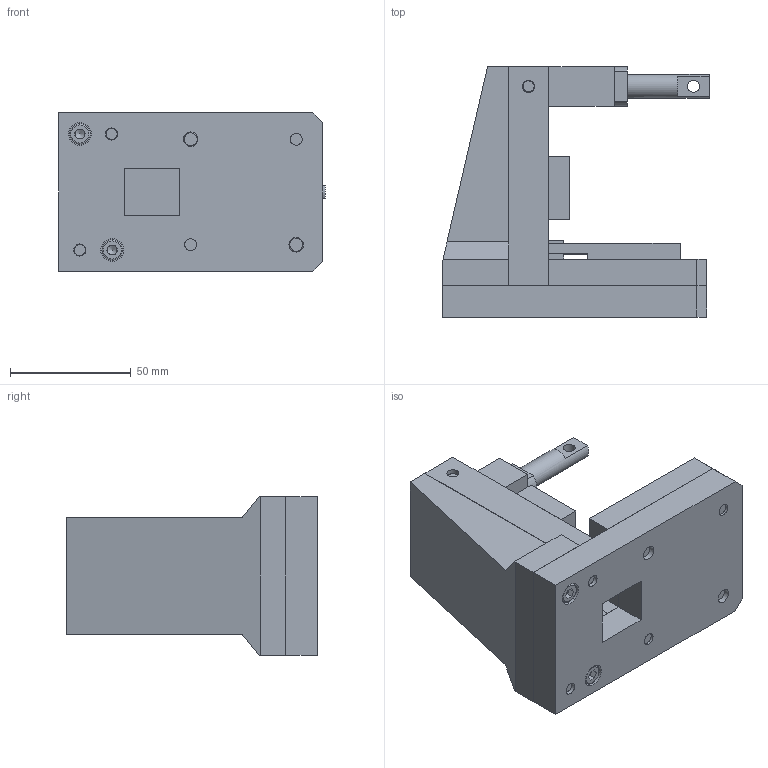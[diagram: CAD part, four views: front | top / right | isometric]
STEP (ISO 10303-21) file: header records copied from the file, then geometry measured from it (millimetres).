
FILE_DESCRIPTION(/* description */ ('Unknown','CAx-IF Rec.Pracs.---Representation and Presentation of Product Manufacturing Information (PMI)---4.0---2014-10-13','CAx-IF Rec.Pracs.---3D Tessellated Geometry---0.4---2014-09-14','2;1'),/* implementation_level */ '2;1');
FILE_NAME(/* name */ 'Prensa de Troquelado',/* time_stamp */ '2023-05-04T13:54:25-03:00',/* author */ ('Unknown'),/* organization */ ('Unknown'),/* preprocessor_version */ 'ST-DEVELOPER v18.102',/* originating_system */ 'Solid Edge',/* authorisation */ 'Unknown');
FILE_SCHEMA (('AP242_MANAGED_MODEL_BASED_3D_ENGINEERING_MIM_LF { 1 0 10303 442 1 1 4 }'));
Length unit declared in the file: millimetre
Products named in the file (20): Prensa de Corte; 16 - Pino Guia 5 m6 x 25; 15 - Pino Guia 5 m6 x 30; 14 - Pino Guia 5 m6 x 20; 13 - Pino Guia 6 m6 x 20; 12 - Pino Guia 5 m6 x 16; 11 - Pino Guia 4 m6 x 14; 19 - Parafuso Allen M4 x 12 (DIN 912); 18 - Parafuso Allen M5 x 16 (DIN 912); 17 - Parafuso Allen M6 x 16 (DIN 912); 05 - Encosto; 06 - Punção; 04 - Biela; 08 - Alavanca; 07 - Articulacion; 10 - Guias Laterais; 03 - Suporte; 02 - Guia; 09 - Coluna; 01 - Base
Assembly tree (37 placements, depth 2):
  Prensa de Corte
    16 - Pino Guia 5 m6 x 25  x2
    15 - Pino Guia 5 m6 x 30  x2
    14 - Pino Guia 5 m6 x 20  x2
    13 - Pino Guia 6 m6 x 20  x2
    12 - Pino Guia 5 m6 x 16  x4
    11 - Pino Guia 4 m6 x 14  x2
    19 - Parafuso Allen M4 x 12 (DIN 912)  x4
    18 - Parafuso Allen M5 x 16 (DIN 912)  x6
    17 - Parafuso Allen M6 x 16 (DIN 912)  x2
    05 - Encosto
    06 - Punção
    04 - Biela
    08 - Alavanca
    07 - Articulacion
    10 - Guias Laterais  x2
    03 - Suporte
    02 - Guia
    09 - Coluna
    01 - Base
Bounding box: 110.1 x 103.59 x 65.4 mm (x, y, z)
Volume: 313180.4 mm3; surface area: 98383.6 mm2
Topology: 37 solids, 37 shells, 549 faces, 1195 edges, 749 vertices
Faces by surface type: plane 334, cylinder 125, cone 66, torus 24
Full cylindrical faces by diameter (mm): 3.3 x4, 4 x10, 4.2 x6, 4.5 x4, 5 x41, 5.1 x2, 5.45 x1, 5.5 x6, 6 x8, 6.5 x2, 7 x5, 7.5 x4, 8 x1, 8.5 x6, 9.5 x6, 9.81 x1, 10 x2, 10.5 x2
Entity records: 9406 total; most frequent: DIRECTION 1493, CARTESIAN_POINT 1346, ORIENTED_EDGE 1104, AXIS2_PLACEMENT_3D 582, EDGE_CURVE 552, FACE_BOUND 525, EDGE_LOOP 509, VERTEX_POINT 435
